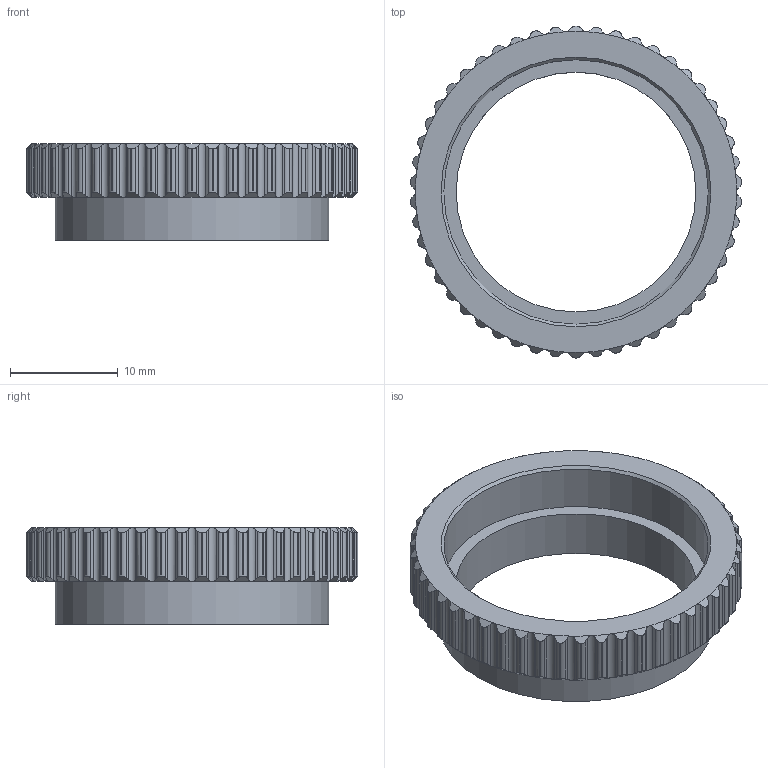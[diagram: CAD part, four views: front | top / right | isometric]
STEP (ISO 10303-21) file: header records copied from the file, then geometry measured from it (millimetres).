
FILE_DESCRIPTION( ( 'M12 LENS HOLDER' ), '1' );
FILE_NAME( 'D:/DropBox/Personal/M12 Lenses/TechData/SolidModels/PT-ER001CSP/PT-ER001CSP.stp', 'Unknown', ( 'Tharaka Goonetilleke' ), ( 'M12 Lenses Inc.' ), 'PSStep 13.0', 'Unknown', ' ' );
FILE_SCHEMA( ( 'AUTOMOTIVE_DESIGN { 1 0 10303 214 1 1 1 1 }' ) );
Length unit declared in the file: millimetre
Products named in the file (1): 1
Bounding box: 30.75 x 30.8 x 9 mm (x, y, z)
Volume: 1747.2 mm3; surface area: 2159.1 mm2
Topology: 1 solids, 1 shells, 408 faces, 1214 edges, 810 vertices
Faces by surface type: cylinder 203, plane 104, cone 101
Full cylindrical faces by diameter (mm): 22.25 x1, 24.541 x1, 25.4 x1
Entity records: 18138 total; most frequent: CARTESIAN_POINT 4823, ORIENTED_EDGE 2414, DIRECTION 1732, EDGE_CURVE 1207, VERTEX_POINT 807, AXIS2_PLACEMENT_3D 716, B_SPLINE_CURVE_WITH_KNOTS 600, EDGE_LOOP 416
